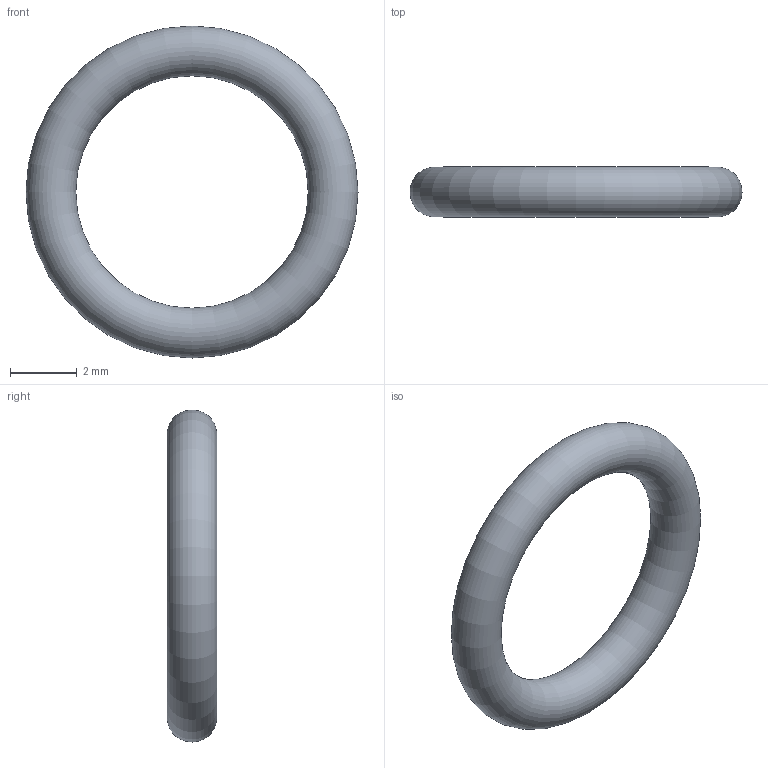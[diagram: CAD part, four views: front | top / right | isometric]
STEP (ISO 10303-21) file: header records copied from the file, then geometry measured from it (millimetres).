
FILE_DESCRIPTION(/* description */ (''),/* implementation_level */ '2;1');
FILE_NAME(/* name */ 'C:/Users/drich/Desktop/S4 v1.step',/* time_stamp */ '2020-02-10T19:57:21-06:00',/* author */ (''),/* organization */ (''),/* preprocessor_version */ 'ST-DEVELOPER v18',/* originating_system */ 'Autodesk Translation Framework v8.12.0.6',/* authorisation */ '');
FILE_SCHEMA (('AUTOMOTIVE_DESIGN { 1 0 10303 214 3 1 1 }'));
Length unit declared in the file: inch
Products named in the file (1): S4
Bounding box: 9.98 x 1.5 x 9.98 mm (x, y, z)
Volume: 47 mm3; surface area: 125.5 mm2
Topology: 1 solids, 1 shells, 1 faces, 2 edges, 1 vertices
Faces by surface type: torus 1
Entity records: 76 total; most frequent: DIRECTION 8, CARTESIAN_POINT 5, ORIENTED_EDGE 4, AXIS2_PLACEMENT_3D 4, CIRCLE 2, EDGE_CURVE 2, DERIVED_UNIT_ELEMENT 2, PROPERTY_DEFINITION_REPRESENTATION 2
